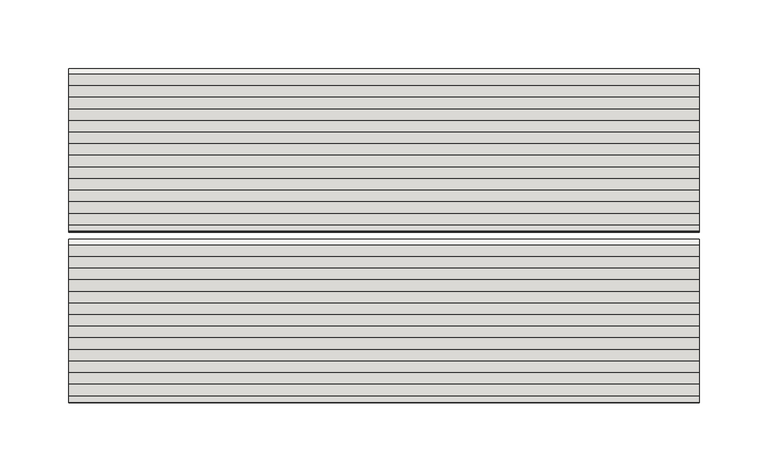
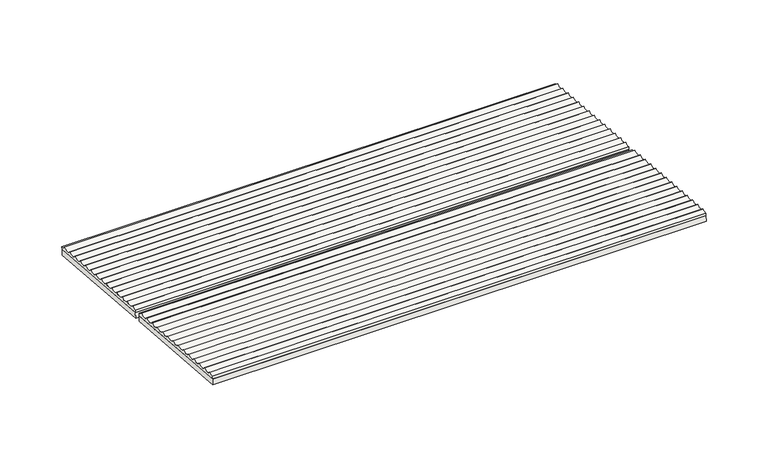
"""IFC4 building model written with IfcOpenShell, lengths in millimetres: slab geometry, ROSA GRES_001 (2 filas) : Piezas 001_Aqua_Blanco_Anti-Slip."""

from ifc_helpers import new_model, si_unit, point, frame, frame_2d, origin, place, context, project, spatial, polyline, circle_curve, trimmed, segment, composite_curve, outline, extrude, source, transform, mapped, element, save


def slab_0c901df1(model_context):
    return source(origin(), model_context, "Body", "SweptSolid", [
        extrude(outline(polyline([(59.4997999, 0.0), (59.4997999, -460.0), (-59.4998, -460.0), (-59.4998, 0.0), (59.4997999, 0.0)])), frame((460.0, -183.3614376, 204.5238637), z_axis=(0.0, 0.08112705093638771, 0.9967037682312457), x_axis=(0.0, -0.9967037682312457, 0.08112705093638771)), (0.0, 0.0, 1.0), 5.0),
        extrude(outline(polyline([(59.4998, 0.0), (59.4998, -460.0), (-59.4997999, -460.0), (-59.4997999, 0.0), (59.4998, 0.0)])), frame((460.0, -307.9490099, 214.6647126), z_axis=(0.0, 0.08112705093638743, 0.9967037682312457), x_axis=(0.0, -0.9967037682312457, 0.08112705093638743)), (0.0, 0.0, 1.0), 5.0),
        extrude(outline(composite_curve([segment(polyline([(-242.2594772, 214.3344258), (-242.046278, 216.9537305)]), True, "CONTINUOUS"), segment(trimmed(circle_curve(frame_2d((-241.5926747, 222.5265709)), 5.5912705), [point((-242.046278, 216.9537305))], [point((-237.6514463, 218.5605875))], True, "CARTESIAN"), True, "CONTINUOUS"), segment(trimmed(circle_curve(frame_2d((-233.1207211, 221.8369933)), 5.5912705), [point((-237.6514463, 218.5605875))], [point((-229.1794928, 217.8710099))], True, "CARTESIAN"), True, "CONTINUOUS"), segment(trimmed(circle_curve(frame_2d((-224.6487676, 221.1474157)), 5.5912705), [point((-229.1794928, 217.8710099))], [point((-220.7075392, 217.1814322))], True, "CARTESIAN"), True, "CONTINUOUS"), segment(trimmed(circle_curve(frame_2d((-216.176814, 220.457838)), 5.5912705), [point((-220.7075392, 217.1814322))], [point((-212.2355856, 216.4918546))], True, "CARTESIAN"), True, "CONTINUOUS"), segment(trimmed(circle_curve(frame_2d((-207.7048605, 219.7682604)), 5.5912705), [point((-212.2355856, 216.4918546))], [point((-203.7636321, 215.802277))], True, "CARTESIAN"), True, "CONTINUOUS"), segment(trimmed(circle_curve(frame_2d((-199.2329069, 219.0786828)), 5.5912705), [point((-203.7636321, 215.802277))], [point((-195.2916785, 215.1126994))], True, "CARTESIAN"), True, "CONTINUOUS"), segment(trimmed(circle_curve(frame_2d((-190.7609534, 218.3891052)), 5.5912705), [point((-195.2916785, 215.1126994))], [point((-186.819725, 214.4231218))], True, "CARTESIAN"), True, "CONTINUOUS"), segment(trimmed(circle_curve(frame_2d((-182.2889998, 217.6995276)), 5.5912705), [point((-186.819725, 214.4231218))], [point((-178.3477714, 213.7335442))], True, "CARTESIAN"), True, "CONTINUOUS"), segment(trimmed(circle_curve(frame_2d((-173.8170463, 217.00995)), 5.5912705), [point((-178.3477714, 213.7335442))], [point((-169.8758179, 213.0439666))], True, "CARTESIAN"), True, "CONTINUOUS"), segment(trimmed(circle_curve(frame_2d((-165.3450927, 216.3203723)), 5.5912705), [point((-169.8758179, 213.0439666))], [point((-161.4038643, 212.3543889))], True, "CARTESIAN"), True, "CONTINUOUS"), segment(trimmed(circle_curve(frame_2d((-156.8731392, 215.6307947)), 5.5912705), [point((-161.4038643, 212.3543889))], [point((-152.9319108, 211.6648113))], True, "CARTESIAN"), True, "CONTINUOUS"), segment(trimmed(circle_curve(frame_2d((-148.4011856, 214.9412171)), 5.5912705), [point((-152.9319108, 211.6648113))], [point((-144.4599572, 210.9752337))], True, "CARTESIAN"), True, "CONTINUOUS"), segment(trimmed(circle_curve(frame_2d((-139.929232, 214.2516395)), 5.5912705), [point((-144.4599572, 210.9752337))], [point((-135.9880037, 210.2856561))], True, "CARTESIAN"), True, "CONTINUOUS"), segment(trimmed(circle_curve(frame_2d((-131.4572785, 213.5620619)), 5.5912705), [point((-135.9880037, 210.2856561))], [point((-127.5160501, 209.5960785))], True, "CARTESIAN"), True, "CONTINUOUS"), segment(trimmed(circle_curve(frame_2d((-122.9853249, 212.8724843)), 5.5912705), [point((-127.5160501, 209.5960785))], [point((-123.4389282, 207.2996439))], True, "CARTESIAN"), True, "CONTINUOUS"), segment(polyline([(-123.4389282, 207.2996439), (-123.6521274, 204.6803392), (-242.2594772, 214.3344258)]), True, "CONTINUOUS")], self_intersect=False)), frame((0.0, 0.0, 0.0), z_axis=(1.0, 0.0, 0.0), x_axis=(0.0, 1.0, 0.0)), (0.0, 0.0, 1.0), 460.0),
        extrude(outline(composite_curve([segment(polyline([(-366.8470495, 224.4752747), (-366.6338503, 227.0945794)]), True, "CONTINUOUS"), segment(trimmed(circle_curve(frame_2d((-366.180247, 232.6674198)), 5.5912705), [point((-366.6338503, 227.0945794))], [point((-362.2390187, 228.7014364))], True, "CARTESIAN"), True, "CONTINUOUS"), segment(trimmed(circle_curve(frame_2d((-357.7082935, 231.9778422)), 5.5912705), [point((-362.2390187, 228.7014364))], [point((-353.7670651, 228.0118588))], True, "CARTESIAN"), True, "CONTINUOUS"), segment(trimmed(circle_curve(frame_2d((-349.2363399, 231.2882646)), 5.5912705), [point((-353.7670651, 228.0118588))], [point((-345.2951115, 227.3222812))], True, "CARTESIAN"), True, "CONTINUOUS"), segment(trimmed(circle_curve(frame_2d((-340.7643864, 230.5986869)), 5.5912705), [point((-345.2951115, 227.3222812))], [point((-336.823158, 226.6327035))], True, "CARTESIAN"), True, "CONTINUOUS"), segment(trimmed(circle_curve(frame_2d((-332.2924328, 229.9091093)), 5.5912705), [point((-336.823158, 226.6327035))], [point((-328.3512044, 225.9431259))], True, "CARTESIAN"), True, "CONTINUOUS"), segment(trimmed(circle_curve(frame_2d((-323.8204793, 229.2195317)), 5.5912705), [point((-328.3512044, 225.9431259))], [point((-319.8792509, 225.2535483))], True, "CARTESIAN"), True, "CONTINUOUS"), segment(trimmed(circle_curve(frame_2d((-315.3485257, 228.5299541)), 5.5912705), [point((-319.8792509, 225.2535483))], [point((-311.4072973, 224.5639707))], True, "CARTESIAN"), True, "CONTINUOUS"), segment(trimmed(circle_curve(frame_2d((-306.8765722, 227.8403765)), 5.5912705), [point((-311.4072973, 224.5639707))], [point((-302.9353438, 223.8743931))], True, "CARTESIAN"), True, "CONTINUOUS"), segment(trimmed(circle_curve(frame_2d((-298.4046186, 227.1507989)), 5.5912705), [point((-302.9353438, 223.8743931))], [point((-294.4633902, 223.1848155))], True, "CARTESIAN"), True, "CONTINUOUS"), segment(trimmed(circle_curve(frame_2d((-289.9326651, 226.4612213)), 5.5912705), [point((-294.4633902, 223.1848155))], [point((-285.9914367, 222.4952379))], True, "CARTESIAN"), True, "CONTINUOUS"), segment(trimmed(circle_curve(frame_2d((-281.4607115, 225.7716436)), 5.5912705), [point((-285.9914367, 222.4952379))], [point((-277.5194831, 221.8056602))], True, "CARTESIAN"), True, "CONTINUOUS"), segment(trimmed(circle_curve(frame_2d((-272.9887579, 225.082066)), 5.5912705), [point((-277.5194831, 221.8056602))], [point((-269.0475296, 221.1160826))], True, "CARTESIAN"), True, "CONTINUOUS"), segment(trimmed(circle_curve(frame_2d((-264.5168044, 224.3924884)), 5.5912705), [point((-269.0475296, 221.1160826))], [point((-260.575576, 220.426505))], True, "CARTESIAN"), True, "CONTINUOUS"), segment(trimmed(circle_curve(frame_2d((-256.0448508, 223.7029108)), 5.5912705), [point((-260.575576, 220.426505))], [point((-252.1036225, 219.7369274))], True, "CARTESIAN"), True, "CONTINUOUS"), segment(trimmed(circle_curve(frame_2d((-247.5728973, 223.0133332)), 5.5912705), [point((-252.1036225, 219.7369274))], [point((-248.0265006, 217.4404928))], True, "CARTESIAN"), True, "CONTINUOUS"), segment(polyline([(-248.0265006, 217.4404928), (-248.2396998, 214.8211881), (-366.8470495, 224.4752747)]), True, "CONTINUOUS")], self_intersect=False)), frame((0.0, 0.0, 0.0), z_axis=(1.0, 0.0, 0.0), x_axis=(0.0, 1.0, 0.0)), (0.0, 0.0, 1.0), 460.0),
    ])


if __name__ == "__main__":
    model = new_model("IFC4")
    model_context = context("Model", 3, world=origin())
    ifc_project = project(units=[si_unit("LENGTHUNIT", "METRE", prefix="MILLI")], contexts=[model_context])
    site = spatial("IfcSite", under=ifc_project)
    building = spatial("IfcBuilding", under=site)
    placement = place(None, origin())
    slab_shape = slab_0c901df1(model_context)
    element("IfcSlab", 1, ObjectType="ROSA GRES_001 (2 filas) : Piezas 001_Aqua_Blanco_Anti-Slip", at=placement, inside=building, context=model_context, shape_type="MappedRepresentation", body=[
        mapped(slab_shape, transform((0.0, 0.0, 0.0), x_axis=(1.0, 0.0, 0.0), y_axis=(0.0, 1.0, 0.0), z_axis=(0.0, 0.0, 1.0))),
    ])
    save(model, "model.ifc")
